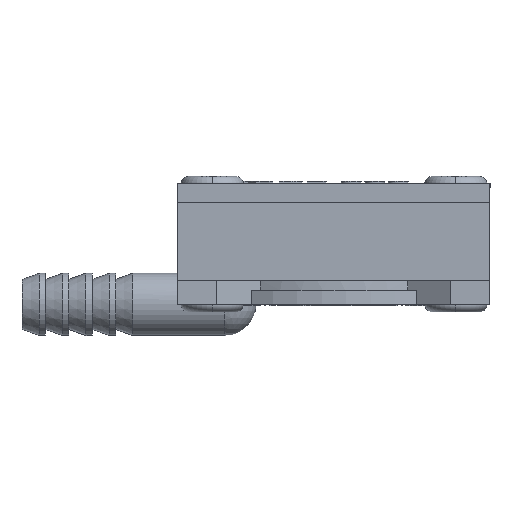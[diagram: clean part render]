
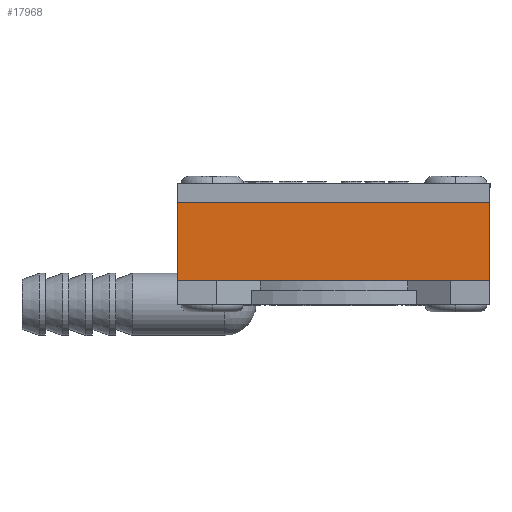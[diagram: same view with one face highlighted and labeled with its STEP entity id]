
A CAD part, front view. The second image highlights one B-rep face of the part: STEP entity #17968.
In plain terms, the highlighted planar face has unit normal (0, -1, 0).
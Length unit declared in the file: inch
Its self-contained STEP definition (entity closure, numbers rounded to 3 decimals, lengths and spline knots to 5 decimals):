
#952 = EDGE_CURVE ( 'NONE', #28146, #14325, #16448, .T. ) ;
#1302 = LINE ( 'NONE', #28799, #21937 ) ;
#1787 = DIRECTION ( 'NONE',  ( 0., 0., -1. ) ) ;
#2566 = DIRECTION ( 'NONE',  ( 0., 1., 0. ) ) ;
#2595 = AXIS2_PLACEMENT_3D ( 'NONE', #17444, #2566, #19950 ) ;
#2787 = ORIENTED_EDGE ( 'NONE', *, *, #7037, .T. ) ;
#3357 = CARTESIAN_POINT ( 'NONE',  ( -0.63095, -0.54361, 0.22373 ) ) ;
#3849 = CARTESIAN_POINT ( 'NONE',  ( 0.36905, -0.54361, -0.02627 ) ) ;
#6756 = CARTESIAN_POINT ( 'NONE',  ( -0.63095, -0.54361, 0.22373 ) ) ;
#7037 = EDGE_CURVE ( 'NONE', #13057, #9512, #18111, .T. ) ;
#9096 = CARTESIAN_POINT ( 'NONE',  ( -0.63095, -0.54361, -0.02627 ) ) ;
#9512 = VERTEX_POINT ( 'NONE', #9096 ) ;
#11025 = VECTOR ( 'NONE', #18605, 39.37008 ) ;
#11162 = CARTESIAN_POINT ( 'NONE',  ( 0.36905, -0.54361, 0.22373 ) ) ;
#11746 = ORIENTED_EDGE ( 'NONE', *, *, #16972, .F. ) ;
#11767 = FACE_OUTER_BOUND ( 'NONE', #25181, .T. ) ;
#11857 = LINE ( 'NONE', #3849, #11025 ) ;
#12527 = ORIENTED_EDGE ( 'NONE', *, *, #26181, .T. ) ;
#13057 = VERTEX_POINT ( 'NONE', #3357 ) ;
#14325 = VERTEX_POINT ( 'NONE', #24617 ) ;
#14942 = DIRECTION ( 'NONE',  ( 0., 0., -1. ) ) ;
#16447 = DIRECTION ( 'NONE',  ( 1., 0., 0. ) ) ;
#16448 = LINE ( 'NONE', #24572, #22299 ) ;
#16972 = EDGE_CURVE ( 'NONE', #13057, #28146, #1302, .T. ) ;
#17444 = CARTESIAN_POINT ( 'NONE',  ( 0.36905, -0.54361, 0.22373 ) ) ;
#17968 = ADVANCED_FACE ( 'NONE', ( #11767 ), #27421, .F. ) ;
#18111 = LINE ( 'NONE', #6756, #31438 ) ;
#18334 = ORIENTED_EDGE ( 'NONE', *, *, #952, .F. ) ;
#18605 = DIRECTION ( 'NONE',  ( 1., 0., 0. ) ) ;
#19950 = DIRECTION ( 'NONE',  ( -1., 0., 0. ) ) ;
#21937 = VECTOR ( 'NONE', #16447, 39.37008 ) ;
#22299 = VECTOR ( 'NONE', #14942, 39.37008 ) ;
#24572 = CARTESIAN_POINT ( 'NONE',  ( 0.36905, -0.54361, 0.22373 ) ) ;
#24617 = CARTESIAN_POINT ( 'NONE',  ( 0.36905, -0.54361, -0.02627 ) ) ;
#25181 = EDGE_LOOP ( 'NONE', ( #12527, #18334, #11746, #2787 ) ) ;
#26181 = EDGE_CURVE ( 'NONE', #9512, #14325, #11857, .T. ) ;
#27421 = PLANE ( 'NONE',  #2595 ) ;
#28146 = VERTEX_POINT ( 'NONE', #11162 ) ;
#28799 = CARTESIAN_POINT ( 'NONE',  ( 0.36905, -0.54361, 0.22373 ) ) ;
#31438 = VECTOR ( 'NONE', #1787, 39.37008 ) ;
